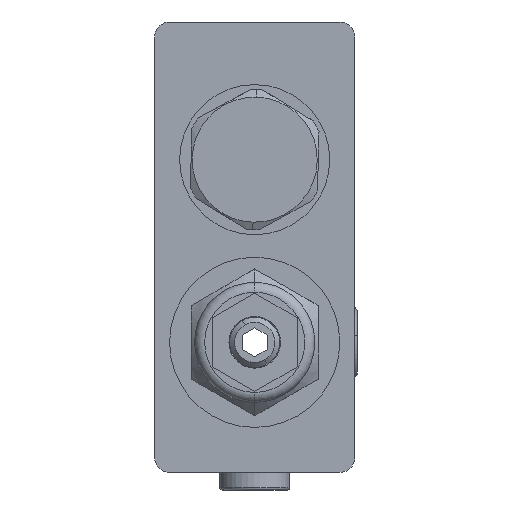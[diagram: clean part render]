
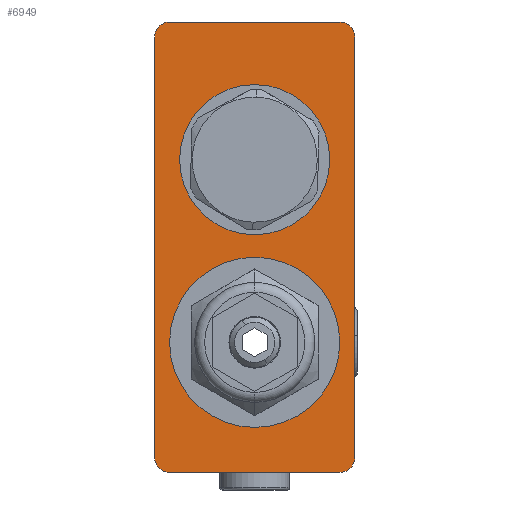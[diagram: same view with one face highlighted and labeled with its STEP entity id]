
A CAD part, left-side view. The second image highlights one B-rep face of the part: STEP entity #6949.
In plain terms, the highlighted planar face has unit normal (-1, 0, 0).
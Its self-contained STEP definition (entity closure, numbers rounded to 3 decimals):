
#74 = DIRECTION ( 'NONE',  ( 0., 0., -1. ) ) ;
#90 = VERTEX_POINT ( 'NONE', #4858 ) ;
#133 = CARTESIAN_POINT ( 'NONE',  ( -57.5, 20., 45. ) ) ;
#289 = EDGE_LOOP ( 'NONE', ( #5911, #5381, #3607, #4828, #7174, #5130, #2094, #3363 ) ) ;
#296 = CARTESIAN_POINT ( 'NONE',  ( -57.5, 17., -42. ) ) ;
#303 = DIRECTION ( 'NONE',  ( 0., 0., -1. ) ) ;
#380 = CARTESIAN_POINT ( 'NONE',  ( -57.5, -20., 45. ) ) ;
#452 = CARTESIAN_POINT ( 'NONE',  ( -57.5, 0., -19. ) ) ;
#467 = CARTESIAN_POINT ( 'NONE',  ( -57.5, -17., 45. ) ) ;
#507 = CARTESIAN_POINT ( 'NONE',  ( -57.5, 17., 42. ) ) ;
#550 = CARTESIAN_POINT ( 'NONE',  ( -57.5, 0., -19. ) ) ;
#657 = CARTESIAN_POINT ( 'NONE',  ( -57.5, 0., 17.5 ) ) ;
#736 = AXIS2_PLACEMENT_3D ( 'NONE', #452, #2128, #303 ) ;
#793 = CARTESIAN_POINT ( 'NONE',  ( -57.5, -20., -42. ) ) ;
#1008 = AXIS2_PLACEMENT_3D ( 'NONE', #507, #7034, #1452 ) ;
#1267 = DIRECTION ( 'NONE',  ( 0., -1., 0. ) ) ;
#1328 = DIRECTION ( 'NONE',  ( -1., 0., 0. ) ) ;
#1355 = CARTESIAN_POINT ( 'NONE',  ( -57.5, 17., -45. ) ) ;
#1426 = DIRECTION ( 'NONE',  ( -1., 0., 0. ) ) ;
#1439 = VERTEX_POINT ( 'NONE', #4930 ) ;
#1452 = DIRECTION ( 'NONE',  ( 0., 0., -1. ) ) ;
#1496 = CIRCLE ( 'NONE', #6343, 3. ) ;
#1579 = EDGE_CURVE ( 'NONE', #90, #5079, #2804, .T. ) ;
#1977 = VERTEX_POINT ( 'NONE', #793 ) ;
#1981 = FACE_OUTER_BOUND ( 'NONE', #289, .T. ) ;
#2010 = EDGE_CURVE ( 'NONE', #4477, #2115, #2114, .T. ) ;
#2044 = VERTEX_POINT ( 'NONE', #5889 ) ;
#2092 = CARTESIAN_POINT ( 'NONE',  ( -57.5, 17., 45. ) ) ;
#2094 = ORIENTED_EDGE ( 'NONE', *, *, #3278, .F. ) ;
#2114 = CIRCLE ( 'NONE', #6188, 3. ) ;
#2115 = VERTEX_POINT ( 'NONE', #467 ) ;
#2128 = DIRECTION ( 'NONE',  ( 1., 0., 0. ) ) ;
#2134 = VERTEX_POINT ( 'NONE', #2141 ) ;
#2136 = CARTESIAN_POINT ( 'NONE',  ( -57.5, 0., -36. ) ) ;
#2141 = CARTESIAN_POINT ( 'NONE',  ( -57.5, 20., -42. ) ) ;
#2239 = CARTESIAN_POINT ( 'NONE',  ( -57.5, 20., 45. ) ) ;
#2370 = CARTESIAN_POINT ( 'NONE',  ( -57.5, -17., -42. ) ) ;
#2419 = AXIS2_PLACEMENT_3D ( 'NONE', #550, #4425, #5547 ) ;
#2563 = CARTESIAN_POINT ( 'NONE',  ( -57.5, 20., 45. ) ) ;
#2598 = DIRECTION ( 'NONE',  ( 1., 0., 0. ) ) ;
#2718 = CARTESIAN_POINT ( 'NONE',  ( -57.5, 20., 42. ) ) ;
#2804 = CIRCLE ( 'NONE', #6650, 15. ) ;
#2992 = DIRECTION ( 'NONE',  ( -1., 0., 0. ) ) ;
#3017 = CARTESIAN_POINT ( 'NONE',  ( -57.5, -20., 42. ) ) ;
#3075 = CIRCLE ( 'NONE', #736, 17. ) ;
#3140 = VERTEX_POINT ( 'NONE', #2718 ) ;
#3197 = PLANE ( 'NONE',  #4473 ) ;
#3238 = ORIENTED_EDGE ( 'NONE', *, *, #3906, .T. ) ;
#3278 = EDGE_CURVE ( 'NONE', #3391, #2115, #5127, .T. ) ;
#3292 = ORIENTED_EDGE ( 'NONE', *, *, #1579, .F. ) ;
#3342 = EDGE_CURVE ( 'NONE', #3728, #2044, #5986, .T. ) ;
#3363 = ORIENTED_EDGE ( 'NONE', *, *, #5176, .T. ) ;
#3385 = EDGE_CURVE ( 'NONE', #1977, #4477, #5377, .T. ) ;
#3391 = VERTEX_POINT ( 'NONE', #2092 ) ;
#3506 = CARTESIAN_POINT ( 'NONE',  ( -57.5, 0., 32.5 ) ) ;
#3564 = EDGE_CURVE ( 'NONE', #5079, #90, #6272, .T. ) ;
#3607 = ORIENTED_EDGE ( 'NONE', *, *, #3342, .T. ) ;
#3642 = DIRECTION ( 'NONE',  ( -1., 0., 0. ) ) ;
#3665 = DIRECTION ( 'NONE',  ( 0., -1., 0. ) ) ;
#3707 = EDGE_CURVE ( 'NONE', #2134, #3728, #5341, .T. ) ;
#3728 = VERTEX_POINT ( 'NONE', #1355 ) ;
#3814 = FACE_BOUND ( 'NONE', #6767, .T. ) ;
#3906 = EDGE_CURVE ( 'NONE', #6591, #1439, #7088, .T. ) ;
#3990 = DIRECTION ( 'NONE',  ( 0., 0., 1. ) ) ;
#4098 = EDGE_CURVE ( 'NONE', #2044, #1977, #1496, .T. ) ;
#4391 = CIRCLE ( 'NONE', #1008, 3. ) ;
#4425 = DIRECTION ( 'NONE',  ( 1., 0., 0. ) ) ;
#4473 = AXIS2_PLACEMENT_3D ( 'NONE', #2563, #2598, #5447 ) ;
#4477 = VERTEX_POINT ( 'NONE', #3017 ) ;
#4527 = AXIS2_PLACEMENT_3D ( 'NONE', #296, #1426, #5943 ) ;
#4592 = ORIENTED_EDGE ( 'NONE', *, *, #6954, .T. ) ;
#4665 = DIRECTION ( 'NONE',  ( 0., 0., 1. ) ) ;
#4828 = ORIENTED_EDGE ( 'NONE', *, *, #4098, .T. ) ;
#4858 = CARTESIAN_POINT ( 'NONE',  ( -57.5, 0., 2.5 ) ) ;
#4872 = VECTOR ( 'NONE', #3665, 1000. ) ;
#4930 = CARTESIAN_POINT ( 'NONE',  ( -57.5, 0., -2. ) ) ;
#5079 = VERTEX_POINT ( 'NONE', #3506 ) ;
#5127 = LINE ( 'NONE', #133, #6032 ) ;
#5130 = ORIENTED_EDGE ( 'NONE', *, *, #2010, .T. ) ;
#5152 = CARTESIAN_POINT ( 'NONE',  ( -57.5, 0., 17.5 ) ) ;
#5176 = EDGE_CURVE ( 'NONE', #3391, #3140, #4391, .T. ) ;
#5341 = CIRCLE ( 'NONE', #4527, 3. ) ;
#5377 = LINE ( 'NONE', #380, #6740 ) ;
#5381 = ORIENTED_EDGE ( 'NONE', *, *, #3707, .T. ) ;
#5447 = DIRECTION ( 'NONE',  ( 0., 0., -1. ) ) ;
#5463 = AXIS2_PLACEMENT_3D ( 'NONE', #5152, #1328, #6863 ) ;
#5547 = DIRECTION ( 'NONE',  ( 0., 0., -1. ) ) ;
#5854 = DIRECTION ( 'NONE',  ( 0., 0., -1. ) ) ;
#5889 = CARTESIAN_POINT ( 'NONE',  ( -57.5, -17., -45. ) ) ;
#5911 = ORIENTED_EDGE ( 'NONE', *, *, #7066, .F. ) ;
#5943 = DIRECTION ( 'NONE',  ( 0., 0., -1. ) ) ;
#5986 = LINE ( 'NONE', #6938, #4872 ) ;
#6023 = FACE_BOUND ( 'NONE', #6312, .T. ) ;
#6032 = VECTOR ( 'NONE', #1267, 1000. ) ;
#6170 = LINE ( 'NONE', #2239, #6453 ) ;
#6188 = AXIS2_PLACEMENT_3D ( 'NONE', #6992, #3642, #5854 ) ;
#6268 = DIRECTION ( 'NONE',  ( -1., 0., 0. ) ) ;
#6272 = CIRCLE ( 'NONE', #5463, 15. ) ;
#6312 = EDGE_LOOP ( 'NONE', ( #6390, #3292 ) ) ;
#6343 = AXIS2_PLACEMENT_3D ( 'NONE', #2370, #6268, #74 ) ;
#6390 = ORIENTED_EDGE ( 'NONE', *, *, #3564, .F. ) ;
#6453 = VECTOR ( 'NONE', #3990, 1000. ) ;
#6471 = DIRECTION ( 'NONE',  ( 0., 0., 1. ) ) ;
#6591 = VERTEX_POINT ( 'NONE', #2136 ) ;
#6650 = AXIS2_PLACEMENT_3D ( 'NONE', #657, #2992, #4665 ) ;
#6740 = VECTOR ( 'NONE', #6471, 1000. ) ;
#6767 = EDGE_LOOP ( 'NONE', ( #3238, #4592 ) ) ;
#6863 = DIRECTION ( 'NONE',  ( 0., 0., 1. ) ) ;
#6938 = CARTESIAN_POINT ( 'NONE',  ( -57.5, 20., -45. ) ) ;
#6949 = ADVANCED_FACE ( 'NONE', ( #3814, #1981, #6023 ), #3197, .F. ) ;
#6954 = EDGE_CURVE ( 'NONE', #1439, #6591, #3075, .T. ) ;
#6992 = CARTESIAN_POINT ( 'NONE',  ( -57.5, -17., 42. ) ) ;
#7034 = DIRECTION ( 'NONE',  ( -1., 0., 0. ) ) ;
#7066 = EDGE_CURVE ( 'NONE', #2134, #3140, #6170, .T. ) ;
#7088 = CIRCLE ( 'NONE', #2419, 17. ) ;
#7174 = ORIENTED_EDGE ( 'NONE', *, *, #3385, .T. ) ;
